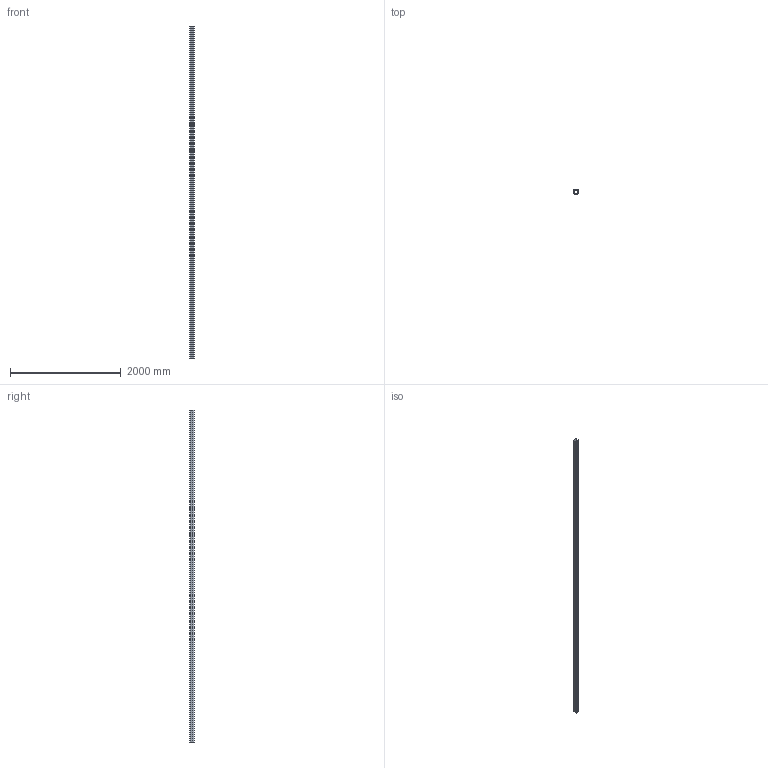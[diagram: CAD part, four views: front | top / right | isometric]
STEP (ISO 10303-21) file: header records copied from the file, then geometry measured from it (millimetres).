
FILE_DESCRIPTION(/* description */ (''),/* implementation_level */ '2;1');
FILE_NAME(/* name */ 'D:\Public\STP\010337017-TP.stp',/* time_stamp */ '2020-05-13T11:42:59+02:00',/* author */ ('avschreier'),/* organization */ (''),/* preprocessor_version */ 'ST-DEVELOPER v17.2',/* originating_system */ 'Autodesk Inventor 2019',/* authorisation */ '');
FILE_SCHEMA (('AUTOMOTIVE_DESIGN { 1 0 10303 214 3 1 1 }'));
Length unit declared in the file: millimetre
Products named in the file (1): 010337017
Bounding box: 80 x 75 x 6000 mm (x, y, z)
Volume: 7482267.5 mm3; surface area: 3055401.1 mm2
Topology: 1 solids, 1 shells, 30 faces, 84 edges, 56 vertices
Faces by surface type: plane 18, cylinder 12
Entity records: 1013 total; most frequent: CARTESIAN_POINT 171, DIRECTION 170, ORIENTED_EDGE 168, EDGE_CURVE 84, LINE 60, VECTOR 60, VERTEX_POINT 56, AXIS2_PLACEMENT_3D 55
